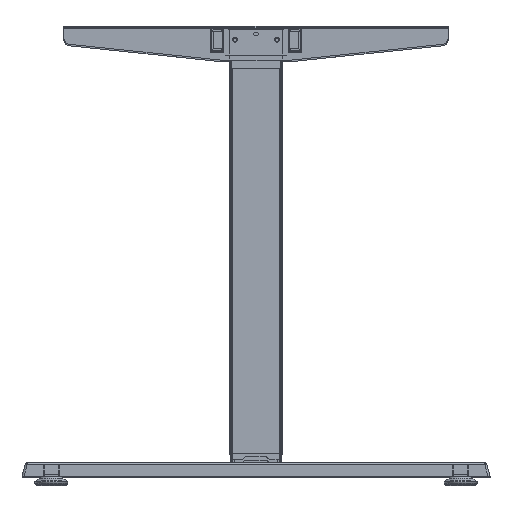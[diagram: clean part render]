
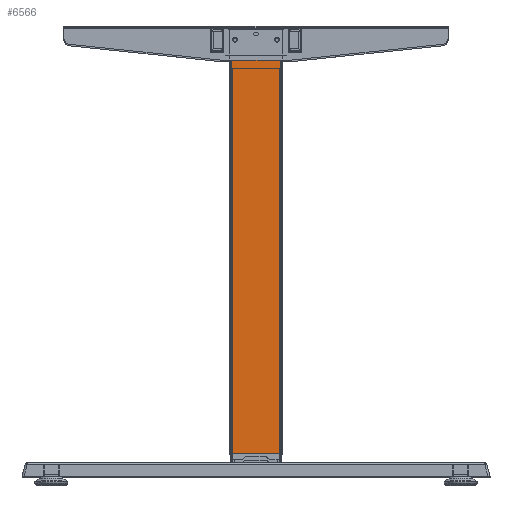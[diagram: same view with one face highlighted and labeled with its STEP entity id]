
A CAD part, top view. The second image highlights one B-rep face of the part: STEP entity #6566.
In plain terms, the highlighted planar face has unit normal (0, 0, 1).
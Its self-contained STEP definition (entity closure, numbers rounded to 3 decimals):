
#6214=DIRECTION('',(1.,0.,0.));
#6215=VECTOR('',#6214,74.);
#6216=CARTESIAN_POINT('',(-2847.,-636.,-183.));
#6217=LINE('',#6216,#6215);
#6245=DIRECTION('',(-1.,0.,0.));
#6246=VECTOR('',#6245,74.);
#6247=CARTESIAN_POINT('',(-2773.,-46.,-183.));
#6248=LINE('',#6247,#6246);
#6312=DIRECTION('',(0.,-1.,0.));
#6313=VECTOR('',#6312,590.);
#6314=CARTESIAN_POINT('',(-2847.,-46.,-183.));
#6315=LINE('',#6314,#6313);
#6348=DIRECTION('',(0.,1.,0.));
#6349=VECTOR('',#6348,590.);
#6350=CARTESIAN_POINT('',(-2773.,-636.,-183.));
#6351=LINE('',#6350,#6349);
#6380=CARTESIAN_POINT('',(-2773.,-46.,-183.));
#6381=CARTESIAN_POINT('',(-2847.,-46.,-183.));
#6382=VERTEX_POINT('',#6380);
#6383=VERTEX_POINT('',#6381);
#6416=CARTESIAN_POINT('',(-2847.,-636.,-183.));
#6417=VERTEX_POINT('',#6416);
#6418=CARTESIAN_POINT('',(-2773.,-636.,-183.));
#6419=VERTEX_POINT('',#6418);
#6553=CARTESIAN_POINT('',(-2770.,-46.,-183.));
#6554=DIRECTION('',(0.,0.,1.));
#6555=DIRECTION('',(-1.,0.,0.));
#6556=AXIS2_PLACEMENT_3D('',#6553,#6554,#6555);
#6557=PLANE('',#6556);
#6558=ORIENTED_EDGE('',*,*,#6457,.F.);
#6560=ORIENTED_EDGE('',*,*,#6559,.F.);
#6561=ORIENTED_EDGE('',*,*,#6521,.F.);
#6563=ORIENTED_EDGE('',*,*,#6562,.F.);
#6564=EDGE_LOOP('',(#6558,#6560,#6561,#6563));
#6565=FACE_OUTER_BOUND('',#6564,.F.);
#6566=ADVANCED_FACE('',(#6565),#6557,.T.);
#6457=EDGE_CURVE('',#6417,#6419,#6217,.T.);
#6521=EDGE_CURVE('',#6382,#6383,#6248,.T.);
#6559=EDGE_CURVE('',#6383,#6417,#6315,.T.);
#6562=EDGE_CURVE('',#6419,#6382,#6351,.T.);
